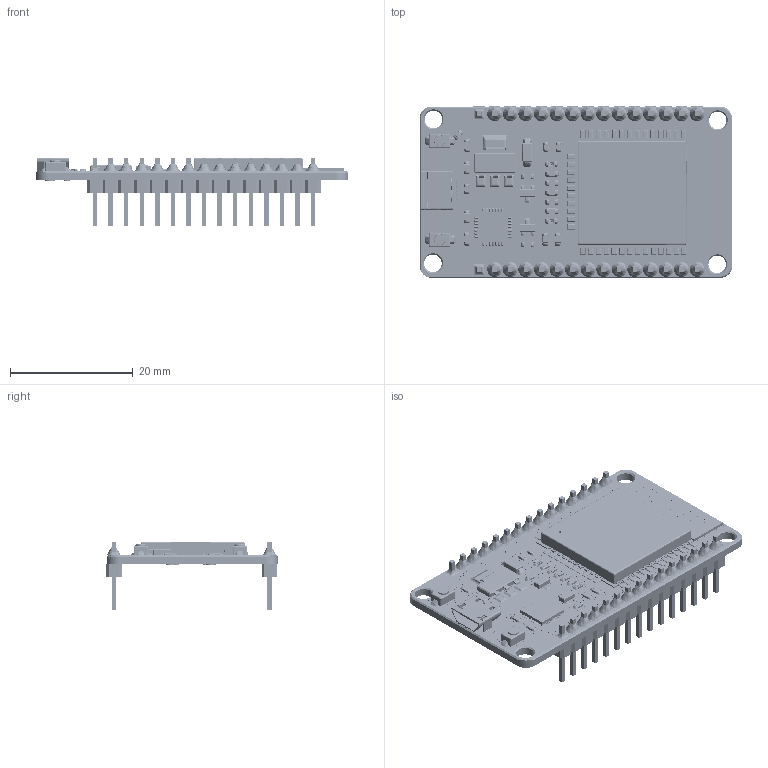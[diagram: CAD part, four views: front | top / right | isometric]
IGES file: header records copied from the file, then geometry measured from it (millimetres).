
Global section: file name: ESP32_DevKitV1; native system: AutoCAD Architecture 2021 - English; preprocessor: Autodesk Translation Framework DWG producer (atf_dwg_producer); organization: unknown; date: 20240524.123014; units: millimetre
Bounding box: 50.97 x 28.04 x 11.21 mm (x, y, z)
Volume: 3619.8 mm3; surface area: 8589.4 mm2
Topology: 520 solids, 520 shells, 23654 faces, 68663 edges, 45950 vertices
Faces by surface type: bspline 23654
